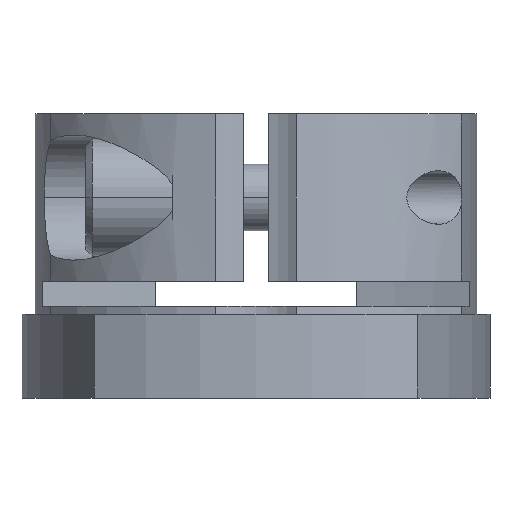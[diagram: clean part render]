
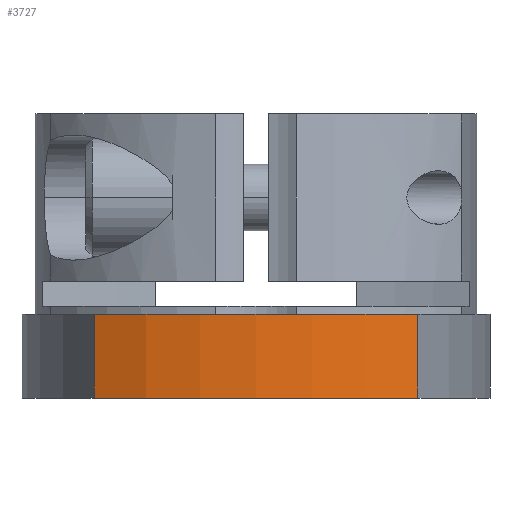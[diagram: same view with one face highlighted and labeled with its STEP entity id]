
A CAD part, front view. The second image highlights one B-rep face of the part: STEP entity #3727.
In plain terms, the highlighted cylindrical face has radius 22.5 mm (diameter 45 mm), a partial arc.
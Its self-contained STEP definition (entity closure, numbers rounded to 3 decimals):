
#3176=CARTESIAN_POINT('',(9.691,-20.306,2.5));
#3177=VERTEX_POINT('',#3176);
#3178=CARTESIAN_POINT('',(-9.691,-20.306,2.5));
#3179=VERTEX_POINT('',#3178);
#3180=CARTESIAN_POINT('',(0.,0.0,2.5));
#3181=DIRECTION('',(0.0,0.0,-1.0));
#3182=DIRECTION('',(1.0,0.0,0.0));
#3183=AXIS2_PLACEMENT_3D('',#3180,#3181,#3182);
#3184=CIRCLE('',#3183,22.5);
#3185=EDGE_CURVE('',#3177,#3179,#3184,.T.);
#3593=CARTESIAN_POINT('',(9.691,-20.306,-2.5));
#3594=VERTEX_POINT('',#3593);
#3595=CARTESIAN_POINT('',(-9.691,-20.306,-2.5));
#3596=VERTEX_POINT('',#3595);
#3597=CARTESIAN_POINT('',(0.,0.0,-2.5));
#3598=DIRECTION('',(0.0,0.0,-1.0));
#3599=DIRECTION('',(1.0,0.0,0.0));
#3600=AXIS2_PLACEMENT_3D('',#3597,#3598,#3599);
#3601=CIRCLE('',#3600,22.5);
#3602=EDGE_CURVE('',#3594,#3596,#3601,.T.);
#3677=CARTESIAN_POINT('',(-9.691,-20.306,-2.5));
#3678=DIRECTION('',(0.0,0.0,1.0));
#3679=VECTOR('',#3678,5.0);
#3680=LINE('',#3677,#3679);
#3681=EDGE_CURVE('',#3596,#3179,#3680,.T.);
#3706=CARTESIAN_POINT('',(9.691,-20.306,-2.5));
#3707=DIRECTION('',(0.0,0.0,1.0));
#3708=VECTOR('',#3707,5.0);
#3709=LINE('',#3706,#3708);
#3710=EDGE_CURVE('',#3594,#3177,#3709,.T.);
#3716=CARTESIAN_POINT('',(0.,0.0,-2.5));
#3717=DIRECTION('',(0.0,0.0,1.0));
#3718=DIRECTION('',(1.0,0.0,0.0));
#3719=AXIS2_PLACEMENT_3D('',#3716,#3717,#3718);
#3720=CYLINDRICAL_SURFACE('',#3719,22.5);
#3721=ORIENTED_EDGE('',*,*,#3185,.T.);
#3722=ORIENTED_EDGE('',*,*,#3681,.F.);
#3723=ORIENTED_EDGE('',*,*,#3602,.F.);
#3724=ORIENTED_EDGE('',*,*,#3710,.T.);
#3725=EDGE_LOOP('',(#3721,#3722,#3723,#3724));
#3726=FACE_OUTER_BOUND('',#3725,.T.);
#3727=ADVANCED_FACE('',(#3726),#3720,.T.);
